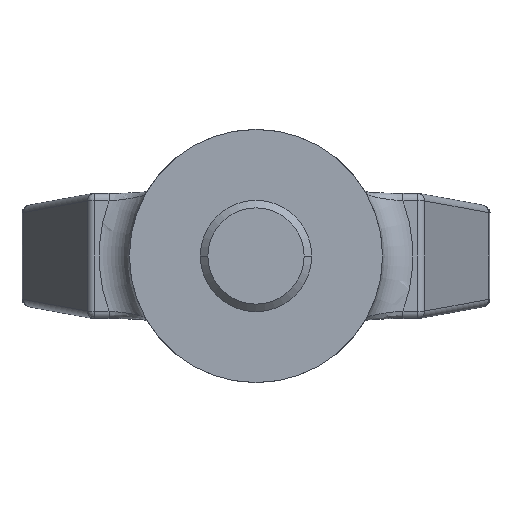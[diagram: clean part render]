
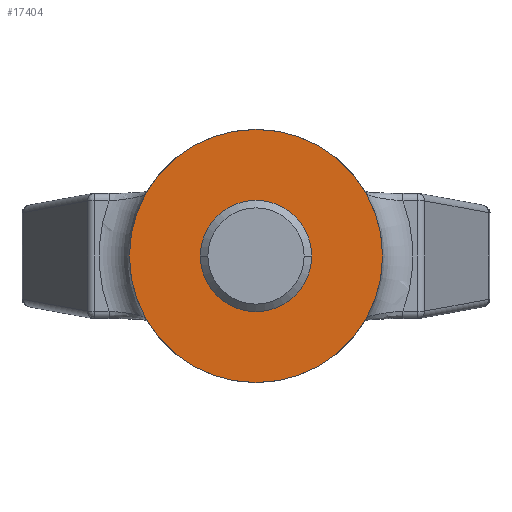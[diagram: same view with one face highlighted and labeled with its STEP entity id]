
A CAD part, front view. The second image highlights one B-rep face of the part: STEP entity #17404.
In plain terms, the highlighted planar face has unit normal (0, -1, 0).
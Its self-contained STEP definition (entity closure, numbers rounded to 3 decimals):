
#6065=CARTESIAN_POINT('',(0.,-44.5,0.));
#6066=DIRECTION('',(0.,-1.,0.));
#6067=DIRECTION('',(-1.,0.,0.));
#6068=AXIS2_PLACEMENT_3D('',#6065,#6066,#6067);
#6070=CARTESIAN_POINT('',(0.,-44.5,0.));
#6071=DIRECTION('',(0.,1.,0.));
#6072=DIRECTION('',(-1.,0.,0.));
#6073=AXIS2_PLACEMENT_3D('',#6070,#6071,#6072);
#6129=CARTESIAN_POINT('',(-25.,-44.5,0.));
#6130=CARTESIAN_POINT('',(25.,-44.5,0.));
#6131=VERTEX_POINT('',#6129);
#6132=VERTEX_POINT('',#6130);
#17395=CARTESIAN_POINT('',(0.,-44.5,0.));
#17396=DIRECTION('',(0.,1.,0.));
#17397=DIRECTION('',(1.,0.,0.));
#17398=AXIS2_PLACEMENT_3D('',#17395,#17396,#17397);
#17399=PLANE('',#17398);
#17400=ORIENTED_EDGE('',*,*,#9121,.F.);
#17401=ORIENTED_EDGE('',*,*,#7970,.T.);
#17402=EDGE_LOOP('',(#17400,#17401));
#17403=FACE_OUTER_BOUND('',#17402,.F.);
#17404=ADVANCED_FACE('',(#17403),#17399,.F.);
#6069=CIRCLE('',#6068,25.);
#6074=CIRCLE('',#6073,25.);
#7970=EDGE_CURVE('',#6131,#6132,#6074,.T.);
#9121=EDGE_CURVE('',#6131,#6132,#6069,.T.);
